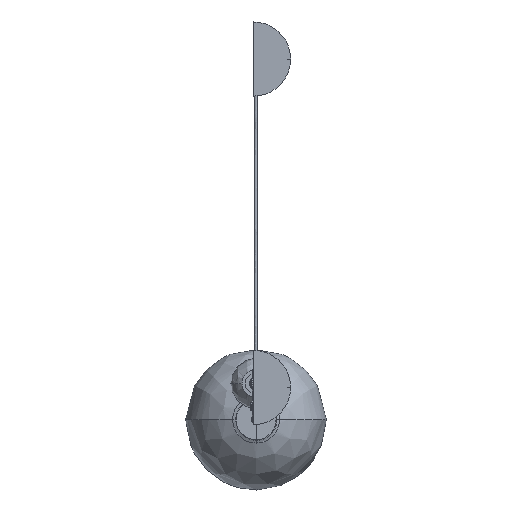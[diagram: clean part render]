
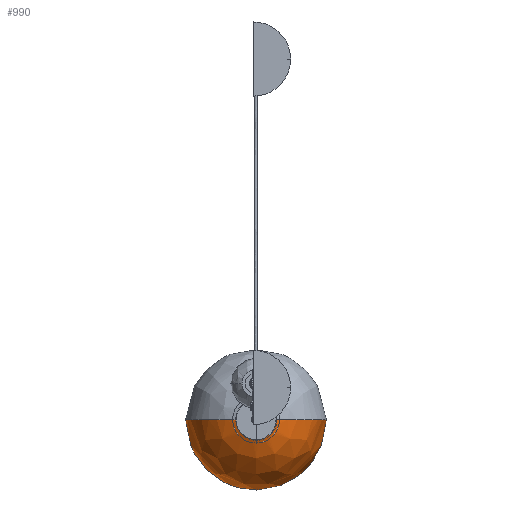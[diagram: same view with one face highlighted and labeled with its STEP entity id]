
A CAD part, top view. The second image highlights one B-rep face of the part: STEP entity #990.
In plain terms, the highlighted free-form (B-spline) face has degree [2, 2] with [5, 5] control points.
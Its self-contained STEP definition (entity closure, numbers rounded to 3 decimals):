
#448=(
BOUNDED_CURVE()
B_SPLINE_CURVE(2,(#6986,#6987,#6988,#6989,#6990),.UNSPECIFIED.,.F.,.F.)
B_SPLINE_CURVE_WITH_KNOTS((3,2,3),(0.,149.235,298.471),
 .UNSPECIFIED.)
CURVE()
GEOMETRIC_REPRESENTATION_ITEM()
RATIONAL_B_SPLINE_CURVE((1.,0.827,1.,0.827,1.))
REPRESENTATION_ITEM('')
);
#450=(
BOUNDED_CURVE()
B_SPLINE_CURVE(2,(#6996,#6997,#6998,#6999,#7000),.UNSPECIFIED.,.F.,.F.)
B_SPLINE_CURVE_WITH_KNOTS((3,2,3),(-298.471,-149.235,
0.),.UNSPECIFIED.)
CURVE()
GEOMETRIC_REPRESENTATION_ITEM()
RATIONAL_B_SPLINE_CURVE((1.,0.827,1.,0.827,1.))
REPRESENTATION_ITEM('')
);
#451=(
BOUNDED_CURVE()
B_SPLINE_CURVE(2,(#7001,#7002,#7003,#7004,#7005),.UNSPECIFIED.,.F.,.F.)
B_SPLINE_CURVE_WITH_KNOTS((3,2,3),(149.235,223.853,298.471),
 .UNSPECIFIED.)
CURVE()
GEOMETRIC_REPRESENTATION_ITEM()
RATIONAL_B_SPLINE_CURVE((1.,0.707,1.,0.707,1.))
REPRESENTATION_ITEM('')
);
#452=(
BOUNDED_CURVE()
B_SPLINE_CURVE(2,(#7006,#7007,#7008,#7009,#7010),.UNSPECIFIED.,.F.,.F.)
B_SPLINE_CURVE_WITH_KNOTS((3,2,3),(-298.471,-223.853,
-149.235),.UNSPECIFIED.)
CURVE()
GEOMETRIC_REPRESENTATION_ITEM()
RATIONAL_B_SPLINE_CURVE((1.,0.707,1.,0.707,1.))
REPRESENTATION_ITEM('')
);
#527=(
BOUNDED_SURFACE()
B_SPLINE_SURFACE(2,2,((#6951,#6952,#6953,#6954,#6955),(#6956,#6957,#6958,
#6959,#6960),(#6961,#6962,#6963,#6964,#6965),(#6966,#6967,#6968,#6969,#6970),
(#6971,#6972,#6973,#6974,#6975)),.UNSPECIFIED.,.F.,.F.,.F.)
B_SPLINE_SURFACE_WITH_KNOTS((3,2,3),(3,2,3),(149.235,223.853,
298.471),(0.,149.235,298.471),.UNSPECIFIED.)
GEOMETRIC_REPRESENTATION_ITEM()
RATIONAL_B_SPLINE_SURFACE(((1.,0.827,1.,0.827,1.),
(0.707,0.585,0.707,0.585,
0.707),(1.,0.827,1.,0.827,1.),(0.707,
0.585,0.707,0.585,0.707),
(1.,0.827,1.,0.827,1.)))
REPRESENTATION_ITEM('')
SURFACE()
);
#990=ADVANCED_FACE('',(#1146),#527,.T.);
#1146=FACE_OUTER_BOUND('',#1314,.T.);
#1314=EDGE_LOOP('',(#1872,#1873,#1874,#1875));
#1872=ORIENTED_EDGE('',*,*,#2370,.T.);
#1873=ORIENTED_EDGE('',*,*,#2369,.F.);
#1874=ORIENTED_EDGE('',*,*,#2371,.T.);
#1875=ORIENTED_EDGE('',*,*,#2367,.F.);
#2367=EDGE_CURVE('',#2930,#2931,#448,.T.);
#2369=EDGE_CURVE('',#2932,#2929,#450,.T.);
#2370=EDGE_CURVE('',#2930,#2929,#451,.T.);
#2371=EDGE_CURVE('',#2932,#2931,#452,.T.);
#2929=VERTEX_POINT('',#6977);
#2930=VERTEX_POINT('',#6978);
#2931=VERTEX_POINT('',#6979);
#2932=VERTEX_POINT('',#6980);
#6951=CARTESIAN_POINT('',(35.474,37.967,-576.426));
#6952=CARTESIAN_POINT('',(116.933,37.967,-600.554));
#6953=CARTESIAN_POINT('',(124.48,37.967,-685.175));
#6954=CARTESIAN_POINT('',(132.027,37.967,-769.796));
#6955=CARTESIAN_POINT('',(56.123,37.967,-807.958));
#6956=CARTESIAN_POINT('',(35.474,2.467,-576.426));
#6957=CARTESIAN_POINT('',(116.933,-78.992,-600.554));
#6958=CARTESIAN_POINT('',(124.48,-86.539,-685.175));
#6959=CARTESIAN_POINT('',(132.027,-94.086,-769.796));
#6960=CARTESIAN_POINT('',(56.123,-18.182,-807.958));
#6961=CARTESIAN_POINT('',(-0.026,2.467,-576.426));
#6962=CARTESIAN_POINT('',(-0.026,-78.992,-600.554));
#6963=CARTESIAN_POINT('',(-0.026,-86.539,-685.175));
#6964=CARTESIAN_POINT('',(-0.026,-94.086,-769.796));
#6965=CARTESIAN_POINT('',(-0.026,-18.182,-807.958));
#6966=CARTESIAN_POINT('',(-35.526,2.467,-576.426));
#6967=CARTESIAN_POINT('',(-116.985,-78.992,-600.554));
#6968=CARTESIAN_POINT('',(-124.532,-86.539,-685.175));
#6969=CARTESIAN_POINT('',(-132.079,-94.086,-769.796));
#6970=CARTESIAN_POINT('',(-56.175,-18.182,-807.958));
#6971=CARTESIAN_POINT('',(-35.526,37.967,-576.426));
#6972=CARTESIAN_POINT('',(-116.985,37.967,-600.554));
#6973=CARTESIAN_POINT('',(-124.532,37.967,-685.175));
#6974=CARTESIAN_POINT('',(-132.079,37.967,-769.796));
#6975=CARTESIAN_POINT('',(-56.175,37.967,-807.958));
#6977=CARTESIAN_POINT('',(-35.526,37.967,-576.426));
#6978=CARTESIAN_POINT('',(35.474,37.967,-576.426));
#6979=CARTESIAN_POINT('',(56.123,37.967,-807.958));
#6980=CARTESIAN_POINT('',(-56.175,37.967,-807.958));
#6986=CARTESIAN_POINT('',(35.474,37.967,-576.426));
#6987=CARTESIAN_POINT('',(116.933,37.967,-600.554));
#6988=CARTESIAN_POINT('',(124.48,37.967,-685.175));
#6989=CARTESIAN_POINT('',(132.027,37.967,-769.796));
#6990=CARTESIAN_POINT('',(56.123,37.967,-807.958));
#6996=CARTESIAN_POINT('',(-56.175,37.967,-807.958));
#6997=CARTESIAN_POINT('',(-132.079,37.967,-769.796));
#6998=CARTESIAN_POINT('',(-124.532,37.967,-685.175));
#6999=CARTESIAN_POINT('',(-116.985,37.967,-600.554));
#7000=CARTESIAN_POINT('',(-35.526,37.967,-576.426));
#7001=CARTESIAN_POINT('',(35.474,37.967,-576.426));
#7002=CARTESIAN_POINT('',(35.474,2.467,-576.426));
#7003=CARTESIAN_POINT('',(-0.026,2.467,-576.426));
#7004=CARTESIAN_POINT('',(-35.526,2.467,-576.426));
#7005=CARTESIAN_POINT('',(-35.526,37.967,-576.426));
#7006=CARTESIAN_POINT('',(-56.175,37.967,-807.958));
#7007=CARTESIAN_POINT('',(-56.175,-18.182,-807.958));
#7008=CARTESIAN_POINT('',(-0.026,-18.182,-807.958));
#7009=CARTESIAN_POINT('',(56.123,-18.182,-807.958));
#7010=CARTESIAN_POINT('',(56.123,37.967,-807.958));
